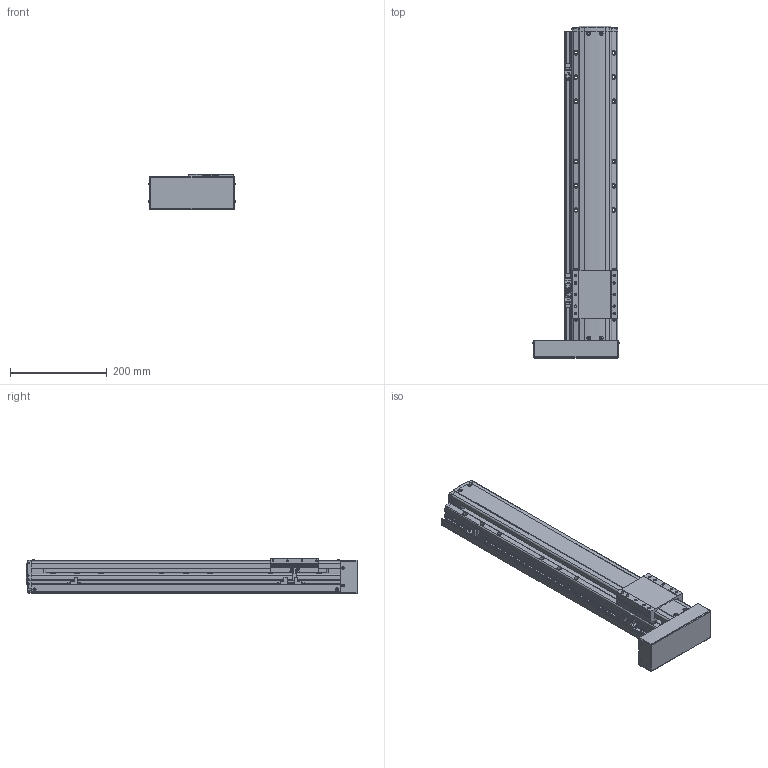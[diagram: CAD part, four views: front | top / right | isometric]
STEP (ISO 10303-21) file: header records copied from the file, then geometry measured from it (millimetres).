
FILE_DESCRIPTION(('STEP AP214'),'1');
FILE_NAME('Z:/Web/3D/PSA95/STP/PSA95-450 (3D)/PSA95ㅁㅁ-450PL+3SL.stp','2014-07-03T00:27:33',(' '),(' '),'Spatial InterOp 3D',' ',' ');
FILE_SCHEMA(('automotive_design'));
Length unit declared in the file: millimetre
Products named in the file (41): BASE; RRCV; 스크루 : Round - M4.0 x 10.0; 너트 : Square - M10.0 x 220.7419; RR1500; FRCV-090; 스크루 : Round - M4.0 x 6.0; SLBL-PA90; MOTOR PLATE COVER; 스크루 : Round - M3.0 x 6.0; EE-SX674; SBK-SX674-352; M3.0 x 6.0; SRL-16x17-380L; SGD-PA95; 스크루 : Round - M3.0 x 8.0
Bounding box: 179.13 x 686.5 x 74 mm (x, y, z)
Volume: 4021412 mm3; surface area: 493790 mm2
Topology: 41 solids, 41 shells, 2384 faces, 6354 edges, 4082 vertices
Faces by surface type: plane 1404, cylinder 667, cone 213, sphere 62, bspline 24, torus 14
Entity records: 95648 total; most frequent: CARTESIAN_POINT 15856, DIRECTION 12636, ORIENTED_EDGE 12452, EDGE_CURVE 6226, LINE 4284, VECTOR 4284, AXIS2_PLACEMENT_3D 4176, VERTEX_POINT 4082
